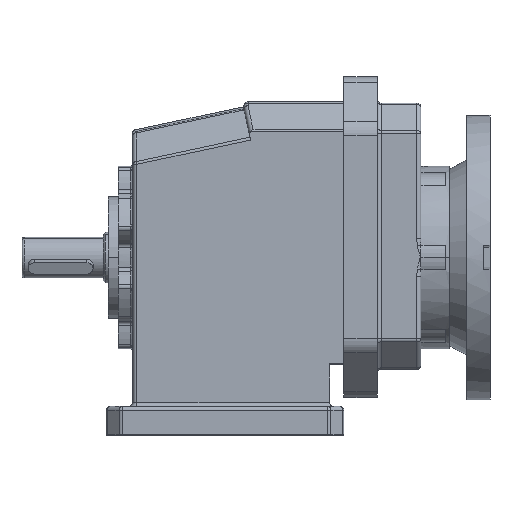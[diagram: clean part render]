
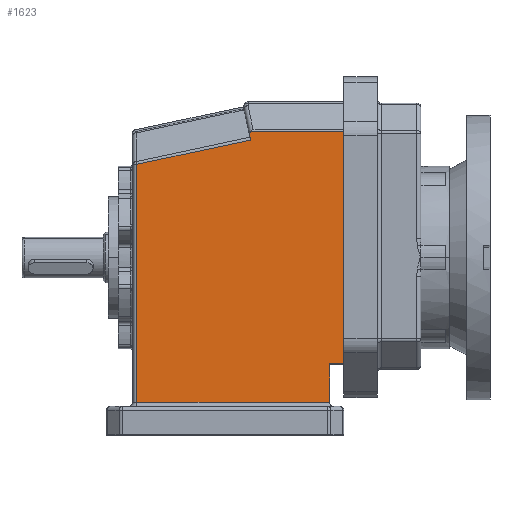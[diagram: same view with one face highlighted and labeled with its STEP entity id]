
A CAD part, top view. The second image highlights one B-rep face of the part: STEP entity #1623.
In plain terms, the highlighted planar face has unit normal (0, 0, 1).
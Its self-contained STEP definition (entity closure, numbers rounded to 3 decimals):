
#417 = DIRECTION ( 'NONE',  ( -0.978, -0.208, 0. ) ) ;
#667 = LINE ( 'NONE', #12846, #9286 ) ;
#924 = CARTESIAN_POINT ( 'NONE',  ( 15., 16., 45. ) ) ;
#1091 = CARTESIAN_POINT ( 'NONE',  ( 117., 35., 45. ) ) ;
#1159 = VERTEX_POINT ( 'NONE', #11844 ) ;
#1161 = ORIENTED_EDGE ( 'NONE', *, *, #7133, .T. ) ;
#1468 = VECTOR ( 'NONE', #11396, 1000. ) ;
#1559 = LINE ( 'NONE', #1717, #4197 ) ;
#1623 = ADVANCED_FACE ( 'NONE', ( #12412 ), #9210, .F. ) ;
#1717 = CARTESIAN_POINT ( 'NONE',  ( 67.772, 160.664, 45. ) ) ;
#1778 = ORIENTED_EDGE ( 'NONE', *, *, #12465, .T. ) ;
#1838 = CARTESIAN_POINT ( 'NONE',  ( 70.734, 146.755, 45. ) ) ;
#1904 = CARTESIAN_POINT ( 'NONE',  ( 0., 149.172, 45. ) ) ;
#1987 = VERTEX_POINT ( 'NONE', #924 ) ;
#2563 = ORIENTED_EDGE ( 'NONE', *, *, #9075, .F. ) ;
#2639 = ORIENTED_EDGE ( 'NONE', *, *, #7364, .T. ) ;
#2991 = DIRECTION ( 'NONE',  ( -1., 0., 0. ) ) ;
#3103 = LINE ( 'NONE', #4524, #8727 ) ;
#3107 = ORIENTED_EDGE ( 'NONE', *, *, #10438, .T. ) ;
#3109 = CARTESIAN_POINT ( 'NONE',  ( 110., 16., 45. ) ) ;
#3521 = CARTESIAN_POINT ( 'NONE',  ( 110., 14., 45. ) ) ;
#3757 = LINE ( 'NONE', #4739, #9000 ) ;
#3779 = LINE ( 'NONE', #3521, #1468 ) ;
#3804 = EDGE_CURVE ( 'NONE', #14574, #4401, #1559, .T. ) ;
#4197 = VECTOR ( 'NONE', #9581, 1000. ) ;
#4401 = VERTEX_POINT ( 'NONE', #8032 ) ;
#4524 = CARTESIAN_POINT ( 'NONE',  ( 117., 164., 45. ) ) ;
#4739 = CARTESIAN_POINT ( 'NONE',  ( 117., 35., 45. ) ) ;
#4747 = LINE ( 'NONE', #1904, #13389 ) ;
#4827 = CARTESIAN_POINT ( 'NONE',  ( 15., 133.243, 45. ) ) ;
#5273 = DIRECTION ( 'NONE',  ( 1., 0., 0. ) ) ;
#6316 = CARTESIAN_POINT ( 'NONE',  ( 70.654, 148.526, 45. ) ) ;
#6499 = VERTEX_POINT ( 'NONE', #1091 ) ;
#6733 = DIRECTION ( 'NONE',  ( 0., -1., 0. ) ) ;
#6782 = ORIENTED_EDGE ( 'NONE', *, *, #7224, .T. ) ;
#6819 =( BOUNDED_CURVE ( )  B_SPLINE_CURVE ( 3, ( #7427, #6316, #8562, #1838 ),
 .UNSPECIFIED., .F., .F. ) 
 B_SPLINE_CURVE_WITH_KNOTS ( ( 4, 4 ),
 ( 0.638, 1.571 ),
 .UNSPECIFIED. ) 
 CURVE ( )  GEOMETRIC_REPRESENTATION_ITEM ( )  RATIONAL_B_SPLINE_CURVE ( ( 1., 0.929, 0.929, 1. ) ) 
 REPRESENTATION_ITEM ( '' )  );
#6887 = CARTESIAN_POINT ( 'NONE',  ( 0., 0., 45. ) ) ;
#6991 = DIRECTION ( 'NONE',  ( -1., 0., 0. ) ) ;
#7005 = DIRECTION ( 'NONE',  ( -1., 0., 0. ) ) ;
#7133 = EDGE_CURVE ( 'NONE', #1987, #9411, #9586, .T. ) ;
#7180 = ORIENTED_EDGE ( 'NONE', *, *, #11863, .T. ) ;
#7211 = VERTEX_POINT ( 'NONE', #13364 ) ;
#7224 = EDGE_CURVE ( 'NONE', #13855, #1987, #14164, .T. ) ;
#7364 = EDGE_CURVE ( 'NONE', #9411, #9034, #3779, .T. ) ;
#7427 = CARTESIAN_POINT ( 'NONE',  ( 71.047, 149.172, 45. ) ) ;
#7779 = VECTOR ( 'NONE', #11135, 1000. ) ;
#8032 = CARTESIAN_POINT ( 'NONE',  ( 71.069, 145.183, 45. ) ) ;
#8562 = CARTESIAN_POINT ( 'NONE',  ( 70.542, 147.658, 45. ) ) ;
#8727 = VECTOR ( 'NONE', #6733, 1000. ) ;
#9000 = VECTOR ( 'NONE', #7005, 1000. ) ;
#9034 = VERTEX_POINT ( 'NONE', #9175 ) ;
#9075 = EDGE_CURVE ( 'NONE', #6499, #9034, #3757, .T. ) ;
#9175 = CARTESIAN_POINT ( 'NONE',  ( 110., 35., 45. ) ) ;
#9210 = PLANE ( 'NONE',  #11059 ) ;
#9286 = VECTOR ( 'NONE', #417, 1000. ) ;
#9411 = VERTEX_POINT ( 'NONE', #3109 ) ;
#9443 = ORIENTED_EDGE ( 'NONE', *, *, #12800, .F. ) ;
#9581 = DIRECTION ( 'NONE',  ( 0.208, -0.978, 0. ) ) ;
#9586 = LINE ( 'NONE', #14313, #12223 ) ;
#10012 = CARTESIAN_POINT ( 'NONE',  ( 15., 14., 45. ) ) ;
#10438 = EDGE_CURVE ( 'NONE', #7211, #1159, #4747, .T. ) ;
#11021 = CARTESIAN_POINT ( 'NONE',  ( 70.734, 146.755, 45. ) ) ;
#11059 = AXIS2_PLACEMENT_3D ( 'NONE', #6887, #13765, #6991 ) ;
#11135 = DIRECTION ( 'NONE',  ( 0., -1., 0. ) ) ;
#11396 = DIRECTION ( 'NONE',  ( 0., 1., 0. ) ) ;
#11844 = CARTESIAN_POINT ( 'NONE',  ( 71.047, 149.172, 45. ) ) ;
#11863 = EDGE_CURVE ( 'NONE', #1159, #14574, #6819, .T. ) ;
#12223 = VECTOR ( 'NONE', #5273, 1000. ) ;
#12412 = FACE_OUTER_BOUND ( 'NONE', #12572, .T. ) ;
#12465 = EDGE_CURVE ( 'NONE', #4401, #13855, #667, .T. ) ;
#12572 = EDGE_LOOP ( 'NONE', ( #6782, #1161, #2639, #2563, #9443, #3107, #7180, #12852, #1778 ) ) ;
#12800 = EDGE_CURVE ( 'NONE', #7211, #6499, #3103, .T. ) ;
#12846 = CARTESIAN_POINT ( 'NONE',  ( 13.173, 132.853, 45. ) ) ;
#12852 = ORIENTED_EDGE ( 'NONE', *, *, #3804, .T. ) ;
#13364 = CARTESIAN_POINT ( 'NONE',  ( 117., 149.172, 45. ) ) ;
#13389 = VECTOR ( 'NONE', #2991, 1000. ) ;
#13765 = DIRECTION ( 'NONE',  ( 0., 0., -1. ) ) ;
#13855 = VERTEX_POINT ( 'NONE', #4827 ) ;
#14164 = LINE ( 'NONE', #10012, #7779 ) ;
#14313 = CARTESIAN_POINT ( 'NONE',  ( 110., 16., 45. ) ) ;
#14574 = VERTEX_POINT ( 'NONE', #11021 ) ;
